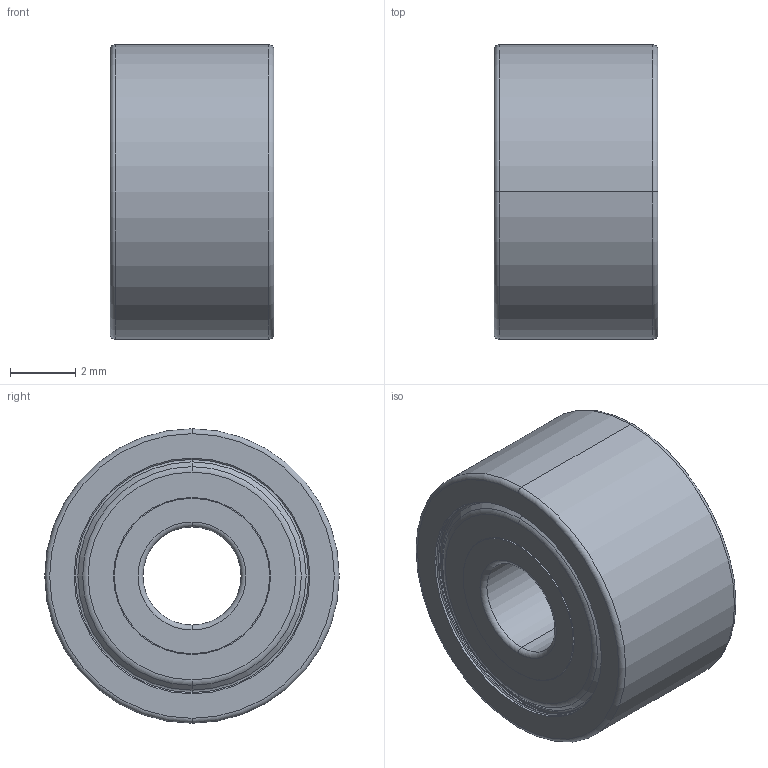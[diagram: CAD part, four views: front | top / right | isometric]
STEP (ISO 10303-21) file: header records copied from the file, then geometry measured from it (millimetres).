
FILE_DESCRIPTION((''),'2;1');
FILE_NAME('603ZZ-EA007','2025-12-19T16:03:29',('qinghui.yi'),(''),'CREO PARAMETRIC BY PTC INC, 2019164','CREO PARAMETRIC BY PTC INC, 2019164','');
FILE_SCHEMA(('CONFIG_CONTROL_DESIGN','SHAPE_APPEARANCE_LAYERS_GROUPS'));
Length unit declared in the file: millimetre
Products named in the file (1): 603ZZ-EA007
Bounding box: 5 x 9 x 9 mm (x, y, z)
Volume: 178.2 mm3; surface area: 551 mm2
Topology: 2 solids, 2 shells, 88 faces, 180 edges, 106 vertices
Faces by surface type: torus 34, cylinder 24, cone 16, plane 14
Entity records: 2596 total; most frequent: DIRECTION 496, CARTESIAN_POINT 374, ORIENTED_EDGE 360, AXIS2_PLACEMENT_3D 228, COLOUR_RGB 197, EDGE_CURVE 180, CIRCLE 140, VERTEX_POINT 106
